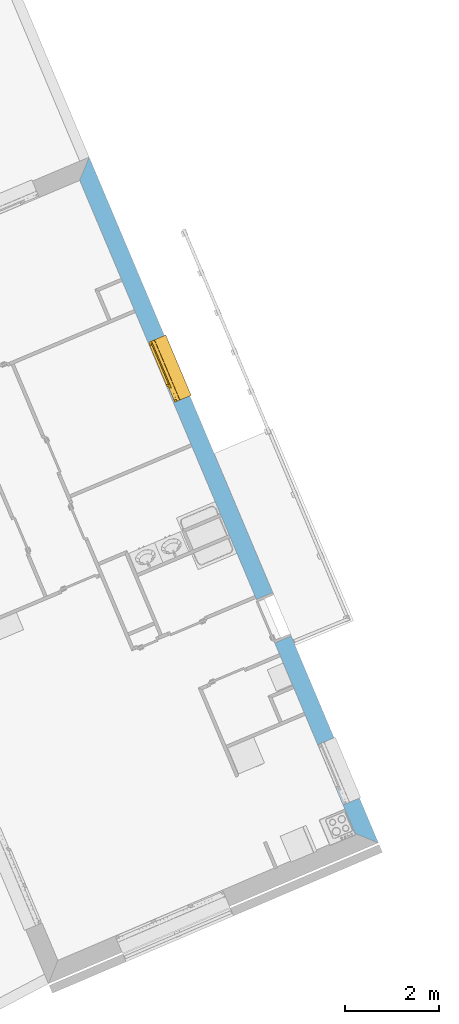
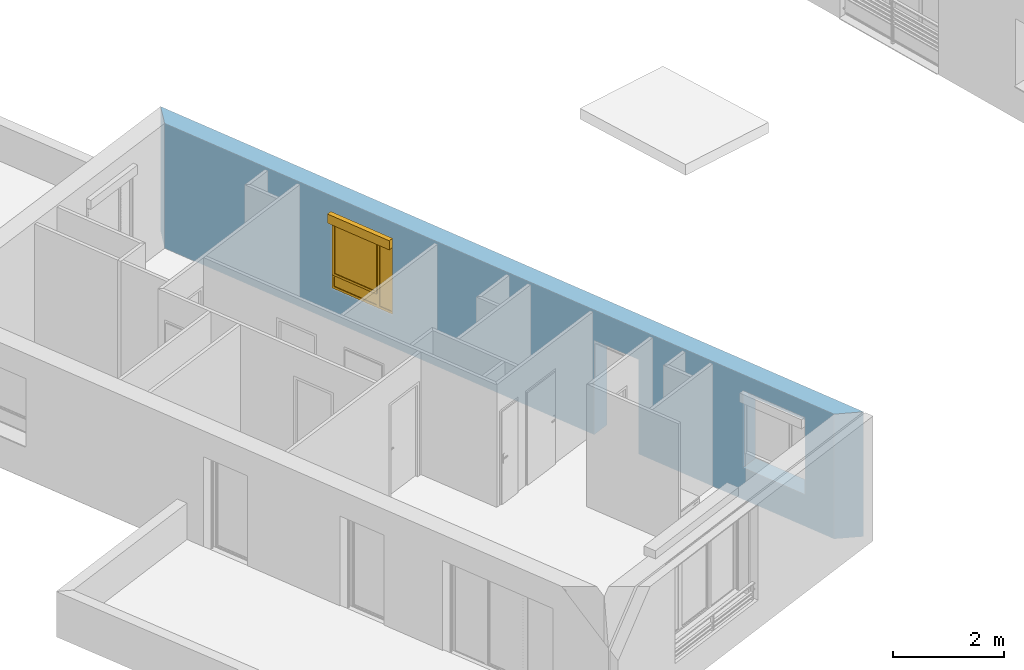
# One storey, part 36 of 121: 1 window, 3 openings, plus 1 element that does not belong to this part.
"""IFC2X3 building model written with IfcOpenShell, lengths in metres."""

from ifc_helpers import new_model, entity, si_unit, converted_unit, derived_unit, money_unit, direction, frame, origin_with_axes, origin_2d_with_axis, place, context, subcontext, project, spatial, polyline, rectangle, outline, extrude, open_shell, faceted_brep, surface_model, source, transform, mapped, material, layer, layer_set, layer_usage, type_object, element, fill, save


model = new_model("IFC2X3")

# Units and contexts
model_context = context("Model", 3, precision=1e-05, world=origin_with_axes(), true_north=direction((0.0, 1.0)))
body_context = subcontext(model_context, "Body", "Model", "MODEL_VIEW")
ifc_project = project(units=[si_unit("LENGTHUNIT", "METRE"), si_unit("AREAUNIT", "SQUARE_METRE"), si_unit("VOLUMEUNIT", "CUBIC_METRE"), converted_unit("PLANEANGLEUNIT", "DEGREE", entity("IfcPlaneAngleMeasure", 0.0174532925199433), si_unit("PLANEANGLEUNIT", "RADIAN"), dimensions=[0, 0, 0, 0, 0, 0, 0]), money_unit("CHF"), converted_unit("TIMEUNIT", "Year", entity("IfcTimeMeasure", 31557600.0), si_unit("TIMEUNIT", "SECOND"), dimensions=[0, 0, 1, 0, 0, 0, 0]), si_unit("MASSUNIT", "GRAM", prefix="KILO"), si_unit("THERMODYNAMICTEMPERATUREUNIT", "DEGREE_CELSIUS"), si_unit("LUMINOUSINTENSITYUNIT", "LUMEN"), si_unit("ENERGYUNIT", "JOULE", prefix="MEGA"), derived_unit("THERMALCONDUCTANCEUNIT", [(si_unit("POWERUNIT", "WATT"), 1), (si_unit("LENGTHUNIT", "METRE"), -1), (si_unit("THERMODYNAMICTEMPERATUREUNIT", "KELVIN"), -1)]), derived_unit("SPECIFICHEATCAPACITYUNIT", [(si_unit("ENERGYUNIT", "JOULE"), 1), (si_unit("MASSUNIT", "GRAM", prefix="KILO"), -1), (si_unit("THERMODYNAMICTEMPERATUREUNIT", "KELVIN"), -1)]), derived_unit("MASSDENSITYUNIT", [(si_unit("MASSUNIT", "GRAM", prefix="KILO"), 1), (si_unit("VOLUMEUNIT", "CUBIC_METRE"), -1)])], contexts=[model_context])

# Site, building, storey
site_placement = place(None, origin_with_axes())
site = spatial("IfcSite", under=ifc_project, at=site_placement, Name="Site", CompositionType="ELEMENT")
building_placement = place(site_placement, origin_with_axes())
building = spatial("IfcBuilding", under=site, at=building_placement, Name="Bâtiment", CompositionType="ELEMENT")
storey_placement = place(building_placement, frame((0.0, 0.0, 2.75), z_axis=(0.0, 0.0, 1.0), x_axis=(1.0, 0.0, 0.0)))
storey = spatial("IfcBuildingStorey", under=building, at=storey_placement, Name="Etage 1", CompositionType="ELEMENT", Elevation=2.75)

# Wall, openings, window
ifc_material_1 = material(Name="Parpaing 312445824")
ifc_layer_1 = layer(ifc_material_1, 0.22, ventilated="UNKNOWN")
ifc_material_2 = material(Name="Isolant styromousse 301821074")
ifc_layer_2 = layer(ifc_material_2, 0.16, ventilated="UNKNOWN")
ifc_layer_set = layer_set([ifc_layer_1, ifc_layer_2], Name="isol int 22+16 0836643197")
ifc_layer_usage = layer_usage(ifc_layer_set, "AXIS2", "NEGATIVE", 0.0)
wall_type = type_object("IfcWallType", Name="isol int 22+16 0836643197 380", PredefinedType="NOTDEFINED")
wall_placement = place(storey_placement, frame((9572.789102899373, -1048.128803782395, 57.7), z_axis=(0.0, 0.0, 1.0), x_axis=(0.3885669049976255, -0.9214205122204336, 0.0)))
wall = element("IfcWallStandardCase", 1, at=wall_placement, inside=storey, type_object=wall_type, material=ifc_layer_usage, Name="Mur-113", context=body_context, shape_type="SweptSolid", body=[
    extrude(outline(polyline([(0.379999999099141, -0.3799999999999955), (15.53325516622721, -0.3799999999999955), (15.91155349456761, 0.0), (-9.952714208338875e-10, 0.0), (0.379999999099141, -0.3799999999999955)])), origin_with_axes(), (0.0, 0.0, 1.0), 2.75),
])
opening_1_placement = place(wall_placement, frame((14.17313174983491, 0.0, 0.7000000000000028), z_axis=(0.0, 0.0, 1.0), x_axis=(1.0, 0.0, 0.0)))
element("IfcOpeningElement", 2, at=opening_1_placement, cuts=wall, Name="Fen-045", context=body_context, shape_type="Brep", body=[
    faceted_brep([(-0.6999999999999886, -0.2199999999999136, 1.5), (0.7000000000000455, -0.2199999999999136, 1.5), (0.7000000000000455, 5.697869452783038, 1.5), (-0.6999999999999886, 5.697869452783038, 1.5), (-0.6999999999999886, -0.2199999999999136, 1.700000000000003), (0.7000000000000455, -0.2199999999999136, 1.700000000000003), (0.7000000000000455, -0.2999999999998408, 1.5), (0.7000000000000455, -0.2999999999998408, 0.0), (0.7000000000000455, 5.697869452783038, 0.0), (-0.6999999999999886, 5.697869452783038, 0.0), (-0.6999999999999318, -0.2999999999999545, 1.5), (-0.6999999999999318, -0.2999999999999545, 0.0), (-0.6999999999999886, -0.4799999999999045, 1.5), (-0.6999999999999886, -0.4799999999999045, 1.700000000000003), (0.7000000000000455, -0.4799999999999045, 1.700000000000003), (0.7000000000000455, -0.4799999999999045, 1.5), (0.7000000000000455, -6.077869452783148, 1.5), (0.7000000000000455, -6.077869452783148, 0.0), (-0.6999999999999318, -6.077869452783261, 0.0), (-0.6999999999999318, -6.077869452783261, 1.5)], [[[0, 1, 2, 3]], [[1, 0, 4, 5]], [[1, 6, 7, 8, 2]], [[2, 8, 9, 3]], [[10, 0, 3, 9, 11]], [[0, 10, 12, 13, 4]], [[14, 5, 4, 13]], [[6, 1, 5, 14, 15]], [[6, 15, 16, 17, 7]], [[7, 11, 9, 8]], [[12, 10, 11, 18, 19]], [[12, 15, 14, 13]], [[15, 12, 19, 16]], [[19, 18, 17, 16]], [[11, 7, 17, 18]]]),
])
opening_2_placement = place(wall_placement, frame((4.840910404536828, 0.0, 0.7000000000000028), z_axis=(0.0, 0.0, 1.0), x_axis=(1.0, 0.0, 0.0)))
opening_2 = element("IfcOpeningElement", 3, at=opening_2_placement, cuts=wall, Name="Fen-045", context=body_context, shape_type="Brep", body=[
    faceted_brep([(-0.6999999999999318, -0.2199999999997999, 1.5), (0.7000000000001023, -0.2199999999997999, 1.5), (0.7000000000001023, 5.697869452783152, 1.5), (-0.6999999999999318, 5.697869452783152, 1.5), (-0.6999999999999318, -0.2199999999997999, 1.700000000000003), (0.7000000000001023, -0.2199999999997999, 1.700000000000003), (0.7000000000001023, -0.2999999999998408, 1.5), (0.7000000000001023, -0.2999999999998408, 0.0), (0.7000000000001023, 5.697869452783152, 0.0), (-0.6999999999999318, 5.697869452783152, 0.0), (-0.6999999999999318, -0.2999999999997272, 1.5), (-0.6999999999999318, -0.2999999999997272, 0.0), (-0.6999999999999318, -0.4799999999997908, 1.5), (-0.6999999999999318, -0.4799999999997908, 1.700000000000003), (0.7000000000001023, -0.4799999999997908, 1.700000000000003), (0.7000000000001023, -0.4799999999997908, 1.5), (0.7000000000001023, -6.07786945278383, 1.5), (0.7000000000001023, -6.07786945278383, 0.0), (-0.6999999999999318, -6.077869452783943, 0.0), (-0.6999999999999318, -6.077869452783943, 1.5)], [[[0, 1, 2, 3]], [[1, 0, 4, 5]], [[1, 6, 7, 8, 2]], [[2, 8, 9, 3]], [[10, 0, 3, 9, 11]], [[0, 10, 12, 13, 4]], [[14, 5, 4, 13]], [[6, 1, 5, 14, 15]], [[6, 15, 16, 17, 7]], [[7, 11, 9, 8]], [[12, 10, 11, 18, 19]], [[12, 15, 14, 13]], [[15, 12, 19, 16]], [[19, 18, 17, 16]], [[11, 7, 17, 18]]]),
])
opening_3_placement = place(wall_placement, frame((10.60770232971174, 0.0, 0.0), z_axis=(0.0, 0.0, 1.0), x_axis=(1.0, 0.0, 0.0)))
element("IfcOpeningElement", 4, at=opening_3_placement, cuts=wall, Name="Por-299", context=body_context, shape_type="SweptSolid", body=[
    extrude(rectangle(XDim=1.01000001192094, YDim=2.079999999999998, at=origin_2d_with_axis()), frame((-5.960430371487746e-09, 0.3799999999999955, 1.039999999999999), z_axis=(0.0, -1.0, 0.0), x_axis=(-1.0, 0.0, 0.0)), (0.0, 0.0, 1.0), 0.76),
])
window_style = type_object("IfcWindowStyle", Name="Fenêtre variable 27", ConstructionType="NOTDEFINED", OperationType="TRIPLE_PANEL_LEFT", ParameterTakesPrecedence=False, Sizeable=False)
shared_shape = source(origin_with_axes(), body_context, "Body", "SurfaceModel", [
    surface_model("IfcShellBasedSurfaceModel", [(0.7, -0.05100000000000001, 0.05), (-0.7, -0.05100000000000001, 0.05000000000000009), (-0.7, -0.05100000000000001, 0.04000000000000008), (0.7, -0.05100000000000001, 0.04), (-0.7, -0.3799999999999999, 0.02900000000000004), (0.7, -0.3799999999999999, 0.02899999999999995), (-0.7, -0.3799999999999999, 0.00900000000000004), (0.7, -0.3799999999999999, 0.008999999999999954), (-0.7, -0.3699999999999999, 0.01900000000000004), (0.7, -0.3699999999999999, 0.01899999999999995)], [open_shell([[[0, 1, 2, 3]], [[3, 2, 4, 5]], [[5, 4, 6, 7]], [[7, 6, 8, 9]]])]),
    faceted_brep([(0.7, -0.13, 1.7), (0.7, 0.13, 1.7), (0.697, 0.13, 1.7), (0.697, -0.13, 1.7), (0.7, -0.13, 1.5), (0.7, 0.13, 1.5), (0.697, 0.13, 1.5), (0.697, -0.13, 1.5)], [[[0, 1, 2, 3]], [[0, 4, 5, 1]], [[1, 5, 6, 2]], [[3, 2, 6, 7]], [[4, 0, 3, 7]], [[5, 4, 7, 6]]]),
    faceted_brep([(-0.6970000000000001, -0.1299999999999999, 1.7), (-0.6970000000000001, 0.1300000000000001, 1.7), (-0.7000000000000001, 0.1300000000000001, 1.7), (-0.7000000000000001, -0.1299999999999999, 1.7), (-0.6970000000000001, -0.1299999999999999, 1.5), (-0.6970000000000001, 0.1300000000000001, 1.5), (-0.7000000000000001, 0.1300000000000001, 1.5), (-0.7000000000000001, -0.1299999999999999, 1.5)], [[[0, 1, 2, 3]], [[0, 4, 5, 1]], [[1, 5, 6, 2]], [[3, 2, 6, 7]], [[4, 0, 3, 7]], [[5, 4, 7, 6]]]),
    faceted_brep([(0.697, -0.13, 1.5), (0.697, -0.13, 1.7), (-0.697, -0.1299999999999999, 1.7), (-0.697, -0.1299999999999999, 1.5), (0.697, -0.127, 1.5), (0.697, -0.127, 1.697), (0.697, 0.127, 1.697), (0.697, 0.127, 1.503), (0.697, -0.108, 1.503), (0.697, -0.108, 1.5), (0.697, 0.13, 1.5), (0.697, 0.13, 1.7), (-0.697, 0.1300000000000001, 1.7), (-0.697, 0.1300000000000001, 1.5), (-0.697, -0.1079999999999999, 1.5), (-0.697, -0.1079999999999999, 1.503), (-0.697, 0.1270000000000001, 1.503), (-0.697, 0.1270000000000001, 1.697), (-0.697, -0.1269999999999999, 1.697), (-0.697, -0.1269999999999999, 1.5)], [[[0, 1, 2, 3]], [[0, 4, 5, 6, 7, 8, 9, 10, 11, 1]], [[1, 11, 12, 2]], [[3, 2, 12, 13, 14, 15, 16, 17, 18, 19]], [[4, 0, 3, 19]], [[5, 4, 19, 18]], [[6, 5, 18, 17]], [[7, 6, 17, 16]], [[8, 7, 16, 15]], [[9, 8, 15, 14]], [[10, 9, 14, 13]], [[11, 10, 13, 12]]]),
    faceted_brep([(0.694, -0.08075423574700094, 1.585760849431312), (0.694, -0.07705479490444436, 1.571954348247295), (0.694, -0.07101408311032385, 1.559), (0.694, -0.06281564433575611, 1.547291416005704), (0.694, -0.05270858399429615, 1.537184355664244), (0.694, -0.04099999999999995, 1.528985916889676), (0.694, -0.02804565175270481, 1.522945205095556), (0.694, -0.01423915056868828, 1.519245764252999), (0.694, 0.0, 1.518), (0.694, 0.01423915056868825, 1.519245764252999), (0.694, 0.02804565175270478, 1.522945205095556), (0.694, 0.04099999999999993, 1.528985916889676), (0.694, 0.05270858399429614, 1.537184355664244), (0.694, 0.06281564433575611, 1.547291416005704), (0.694, 0.07101408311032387, 1.559), (0.694, 0.07705479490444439, 1.571954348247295), (0.694, 0.08075423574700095, 1.585760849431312), (0.694, 0.0819999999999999, 1.6), (0.694, 0.08075423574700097, 1.614239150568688), (0.694, 0.0770547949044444, 1.628045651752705), (0.694, 0.07101408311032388, 1.641), (0.694, 0.06281564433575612, 1.652708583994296), (0.694, 0.05270858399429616, 1.662815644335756), (0.694, 0.04099999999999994, 1.671014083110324), (0.694, 0.02804565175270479, 1.677054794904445), (0.694, 0.01423915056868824, 1.680754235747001), (0.694, 0.0, 1.682), (0.694, -0.01423915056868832, 1.680754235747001), (0.694, -0.02804565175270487, 1.677054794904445), (0.694, -0.04100000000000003, 1.671014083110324), (0.694, -0.05270858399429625, 1.662815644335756), (0.694, -0.06281564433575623, 1.652708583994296), (0.694, -0.07101408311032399, 1.641), (0.694, -0.07705479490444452, 1.628045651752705), (0.694, -0.0807542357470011, 1.614239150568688), (0.694, -0.08200000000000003, 1.6), (-0.694, -0.08075423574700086, 1.585760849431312), (-0.694, -0.07705479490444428, 1.571954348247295), (-0.694, -0.07101408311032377, 1.559), (-0.694, -0.06281564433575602, 1.547291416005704), (-0.694, -0.05270858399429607, 1.537184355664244), (-0.694, -0.04099999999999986, 1.528985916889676), (-0.694, -0.02804565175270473, 1.522945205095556), (-0.694, -0.0142391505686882, 1.519245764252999), (-0.694, 0.0, 1.518), (-0.694, 0.01423915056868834, 1.519245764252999), (-0.694, 0.02804565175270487, 1.522945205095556), (-0.694, 0.04100000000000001, 1.528985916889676), (-0.694, 0.05270858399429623, 1.537184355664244), (-0.694, 0.06281564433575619, 1.547291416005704), (-0.694, 0.07101408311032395, 1.559), (-0.694, 0.07705479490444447, 1.571954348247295), (-0.694, 0.08075423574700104, 1.585760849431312), (-0.694, 0.08199999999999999, 1.6), (-0.694, 0.08075423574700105, 1.614239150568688), (-0.694, 0.07705479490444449, 1.628045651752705), (-0.694, 0.07101408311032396, 1.641), (-0.694, 0.0628156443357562, 1.652708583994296), (-0.694, 0.05270858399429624, 1.662815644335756), (-0.694, 0.04100000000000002, 1.671014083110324), (-0.694, 0.02804565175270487, 1.677054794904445), (-0.694, 0.01423915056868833, 1.680754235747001), (-0.694, 0.0, 1.682), (-0.694, -0.01423915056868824, 1.680754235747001), (-0.694, -0.02804565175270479, 1.677054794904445), (-0.694, -0.04099999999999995, 1.671014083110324), (-0.694, -0.05270858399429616, 1.662815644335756), (-0.694, -0.06281564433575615, 1.652708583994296), (-0.694, -0.07101408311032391, 1.641), (-0.694, -0.07705479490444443, 1.628045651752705), (-0.694, -0.08075423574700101, 1.614239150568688), (-0.694, -0.08199999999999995, 1.6)], [[[0, 1, 2, 3, 4, 5, 6, 7, 8, 9, 10, 11, 12, 13, 14, 15, 16, 17, 18, 19, 20, 21, 22, 23, 24, 25, 26, 27, 28, 29, 30, 31, 32, 33, 34, 35]], [[1, 0, 36, 37]], [[2, 1, 37, 38]], [[3, 2, 38, 39]], [[4, 3, 39, 40]], [[5, 4, 40, 41]], [[6, 5, 41, 42]], [[7, 6, 42, 43]], [[8, 7, 43, 44]], [[9, 8, 44, 45]], [[10, 9, 45, 46]], [[11, 10, 46, 47]], [[12, 11, 47, 48]], [[13, 12, 48, 49]], [[14, 13, 49, 50]], [[15, 14, 50, 51]], [[16, 15, 51, 52]], [[17, 16, 52, 53]], [[18, 17, 53, 54]], [[19, 18, 54, 55]], [[20, 19, 55, 56]], [[21, 20, 56, 57]], [[22, 21, 57, 58]], [[23, 22, 58, 59]], [[24, 23, 59, 60]], [[25, 24, 60, 61]], [[26, 25, 61, 62]], [[27, 26, 62, 63]], [[28, 27, 63, 64]], [[29, 28, 64, 65]], [[30, 29, 65, 66]], [[31, 30, 66, 67]], [[32, 31, 67, 68]], [[33, 32, 68, 69]], [[34, 33, 69, 70]], [[35, 34, 70, 71]], [[0, 35, 71, 36]], [[36, 71, 70, 69, 68, 67, 66, 65, 64, 63, 62, 61, 60, 59, 58, 57, 56, 55, 54, 53, 52, 51, 50, 49, 48, 47, 46, 45, 44, 43, 42, 41, 40, 39, 38, 37]]]),
    faceted_brep([(-0.7, -0.105, 0.03), (-0.7, -0.13, 0.03), (-0.7, -0.1299999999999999, 1.5), (-0.7, -0.1049999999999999, 1.5), (-0.6749999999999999, -0.105, 0.03), (-0.6749999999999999, -0.108, 0.03), (-0.697, -0.108, 0.03), (-0.697, -0.127, 0.03), (-0.6749999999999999, -0.127, 0.03), (-0.6749999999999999, -0.13, 0.03), (-0.6749999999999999, -0.1299999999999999, 1.5), (-0.6749999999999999, -0.1269999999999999, 1.5), (-0.697, -0.1269999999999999, 1.5), (-0.697, -0.1079999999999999, 1.5), (-0.6749999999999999, -0.1079999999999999, 1.5), (-0.6749999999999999, -0.1049999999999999, 1.5)], [[[0, 1, 2, 3]], [[0, 4, 5, 6, 7, 8, 9, 1]], [[1, 9, 10, 2]], [[3, 2, 10, 11, 12, 13, 14, 15]], [[4, 0, 3, 15]], [[5, 4, 15, 14]], [[6, 5, 14, 13]], [[7, 6, 13, 12]], [[8, 7, 12, 11]], [[9, 8, 11, 10]]]),
    faceted_brep([(0.7, -0.105, 0.03), (0.7, -0.1049999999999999, 1.5), (0.7, -0.1299999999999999, 1.5), (0.7, -0.13, 0.03), (0.6749999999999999, -0.105, 0.03), (0.6749999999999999, -0.1049999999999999, 1.5), (0.6749999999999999, -0.1079999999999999, 1.5), (0.697, -0.1079999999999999, 1.5), (0.697, -0.1269999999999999, 1.5), (0.6749999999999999, -0.1269999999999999, 1.5), (0.6749999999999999, -0.1299999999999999, 1.5), (0.6749999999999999, -0.13, 0.03), (0.6749999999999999, -0.127, 0.03), (0.697, -0.127, 0.03), (0.697, -0.108, 0.03), (0.6749999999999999, -0.108, 0.03)], [[[0, 1, 2, 3]], [[4, 5, 1, 0]], [[1, 5, 6, 7, 8, 9, 10, 2]], [[3, 2, 10, 11]], [[0, 3, 11, 12, 13, 14, 15, 4]], [[15, 6, 5, 4]], [[14, 7, 6, 15]], [[13, 8, 7, 14]], [[12, 9, 8, 13]], [[11, 10, 9, 12]]]),
    surface_model("IfcShellBasedSurfaceModel", [(0.697, -0.115, 1.6), (-0.697, -0.1149999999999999, 1.6), (-0.697, -0.12, 1.6), (0.697, -0.12, 1.6), (0.697, -0.115, 1.6), (0.697, -0.12, 1.6), (-0.697, -0.1199999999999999, 1.6), (-0.697, -0.1149999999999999, 1.6)], [open_shell([[[0, 1, 2, 3]], [[4, 5, 6, 7]]])]),
    faceted_brep([(0.697, -0.115, 1.6), (0.697, -0.1166666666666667, 1.583333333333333), (-0.697, -0.1166666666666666, 1.583333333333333), (-0.697, -0.1149999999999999, 1.6), (0.697, -0.12, 1.6), (0.697, -0.1216666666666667, 1.583333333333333), (0.697, -0.1216666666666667, 1.566666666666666), (0.697, -0.12, 1.55), (0.697, -0.115, 1.55), (0.697, -0.1166666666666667, 1.566666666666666), (-0.697, -0.1166666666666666, 1.566666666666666), (-0.697, -0.1149999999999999, 1.55), (-0.697, -0.1199999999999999, 1.55), (-0.697, -0.1216666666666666, 1.566666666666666), (-0.697, -0.1216666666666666, 1.583333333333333), (-0.697, -0.1199999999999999, 1.6)], [[[0, 1, 2, 3]], [[0, 4, 5, 6, 7, 8, 9, 1]], [[1, 9, 10, 2]], [[3, 2, 10, 11, 12, 13, 14, 15]], [[4, 0, 3, 15]], [[5, 4, 15, 14]], [[6, 5, 14, 13]], [[7, 6, 13, 12]], [[8, 7, 12, 11]], [[9, 8, 11, 10]]]),
    faceted_brep([(0.697, -0.115, 1.55), (0.697, -0.1166666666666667, 1.533333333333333), (-0.697, -0.1166666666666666, 1.533333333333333), (-0.697, -0.1149999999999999, 1.55), (0.697, -0.12, 1.55), (0.697, -0.1216666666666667, 1.533333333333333), (0.697, -0.1216666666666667, 1.516666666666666), (0.697, -0.12, 1.5), (0.697, -0.115, 1.5), (0.697, -0.1166666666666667, 1.516666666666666), (-0.697, -0.1166666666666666, 1.516666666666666), (-0.697, -0.1149999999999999, 1.5), (-0.697, -0.1199999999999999, 1.5), (-0.697, -0.1216666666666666, 1.516666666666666), (-0.697, -0.1216666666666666, 1.533333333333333), (-0.697, -0.1199999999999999, 1.55)], [[[0, 1, 2, 3]], [[0, 4, 5, 6, 7, 8, 9, 1]], [[1, 9, 10, 2]], [[3, 2, 10, 11, 12, 13, 14, 15]], [[4, 0, 3, 15]], [[5, 4, 15, 14]], [[6, 5, 14, 13]], [[7, 6, 13, 12]], [[8, 7, 12, 11]], [[9, 8, 11, 10]]]),
    faceted_brep([(0.6749999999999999, 0.0, 1.45), (0.6749999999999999, -0.02500000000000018, 1.45), (0.6499999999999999, -0.02500000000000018, 1.45), (0.6499999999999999, -0.05000000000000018, 1.45), (0.7, -0.05000000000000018, 1.45), (0.7, 0.0, 1.45), (0.6749999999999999, 0.0, 0.3099999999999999), (0.6749999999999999, -0.02500000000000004, 0.3099999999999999), (0.6499999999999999, -0.02500000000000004, 0.335), (0.6499999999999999, -0.02500000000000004, 0.3099999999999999), (0.6499999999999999, -0.05000000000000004, 0.335), (0.6499999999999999, -0.05000000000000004, 0.265), (0.6499999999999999, -0.05000000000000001, 0.05000000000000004), (0.7, -0.05000000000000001, 0.05000000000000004), (0.7, 0.0, 0.05000000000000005), (0.6499999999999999, 0.0, 0.05000000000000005), (0.6499999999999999, 0.0, 0.265), (0.6499999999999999, 0.0, 0.3099999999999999)], [[[0, 1, 2, 3, 4, 5]], [[1, 0, 6, 7]], [[8, 2, 1, 7, 9]], [[2, 8, 10, 3]], [[10, 11, 12, 13, 4, 3]], [[5, 4, 13, 14]], [[6, 0, 5, 14, 15, 16, 17]], [[6, 17, 9, 7]], [[9, 17, 16, 11, 10, 8]], [[15, 12, 11, 16]], [[14, 13, 12, 15]]]),
    faceted_brep([(-0.3068894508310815, -0.02500000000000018, 1.45), (-0.3318894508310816, -0.02500000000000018, 1.45), (-0.3318894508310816, 0.0, 1.45), (-0.3768894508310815, 0.0, 1.45), (-0.3768894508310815, -0.05000000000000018, 1.45), (-0.3068894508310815, -0.05000000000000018, 1.45), (-0.3068894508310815, -0.02500000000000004, 0.335), (-0.3068894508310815, -0.02500000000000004, 0.3099999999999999), (-0.3318894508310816, -0.02500000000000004, 0.3099999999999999), (-0.3318894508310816, 0.0, 0.3099999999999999), (-0.3068894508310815, 0.0, 0.3099999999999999), (-0.3068894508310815, 0.0, 0.265), (-0.3068894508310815, 0.0, 0.05000000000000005), (-0.3768894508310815, 0.0, 0.05000000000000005), (-0.3768894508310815, -0.05000000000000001, 0.05000000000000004), (-0.3068894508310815, -0.05000000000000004, 0.265), (-0.3068894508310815, -0.05000000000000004, 0.335), (-0.3068894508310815, -0.05000000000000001, 0.05000000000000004)], [[[0, 1, 2, 3, 4, 5]], [[1, 0, 6, 7, 8]], [[9, 2, 1, 8]], [[9, 10, 11, 12, 13, 3, 2]], [[13, 14, 4, 3]], [[15, 16, 5, 4, 14, 17]], [[6, 0, 5, 16]], [[7, 6, 16, 15, 11, 10]], [[10, 9, 8, 7]], [[11, 15, 17, 12]], [[12, 17, 14, 13]]]),
    faceted_brep([(0.6499999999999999, -0.02500000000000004, 0.335), (-0.3068894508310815, -0.02500000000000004, 0.335), (-0.3068894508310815, -0.05000000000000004, 0.335), (0.6499999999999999, -0.05000000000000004, 0.335), (-0.3068894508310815, -0.02500000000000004, 0.3099999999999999), (0.6499999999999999, -0.02500000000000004, 0.3099999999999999), (-0.3068894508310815, 0.0, 0.3099999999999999), (-0.3068894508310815, 0.0, 0.265), (-0.3068894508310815, -0.05000000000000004, 0.265), (0.6499999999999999, -0.05000000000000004, 0.265), (0.6499999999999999, 0.0, 0.265), (0.6499999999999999, 0.0, 0.3099999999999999)], [[[0, 1, 2, 3]], [[4, 1, 0, 5]], [[4, 6, 7, 8, 2, 1]], [[2, 8, 9, 3]], [[5, 0, 3, 9, 10, 11]], [[11, 6, 4, 5]], [[6, 11, 10, 7]], [[10, 9, 8, 7]]]),
    faceted_brep([(0.6749999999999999, 0.0, 1.45), (0.6749999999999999, 0.0, 1.475), (-0.3318894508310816, 0.0, 1.475), (-0.3318894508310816, 0.0, 1.45), (-0.3768894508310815, 0.0, 1.45), (-0.6499999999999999, 0.0, 1.45), (-0.7, 0.0, 1.45), (-0.7, 0.0, 1.5), (0.7, 0.0, 1.5), (0.7, 0.0, 1.45), (0.6749999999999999, -0.02500000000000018, 1.45), (0.6749999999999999, -0.02500000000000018, 1.475), (-0.3318894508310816, -0.02500000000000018, 1.475), (-0.3318894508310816, -0.02500000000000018, 1.45), (-0.3068894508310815, -0.02500000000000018, 1.45), (-0.3068894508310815, -0.05000000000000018, 1.45), (-0.3768894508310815, -0.05000000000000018, 1.45), (-0.6499999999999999, -0.05000000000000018, 1.45), (-0.7, -0.05000000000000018, 1.45), (-0.7, -0.05000000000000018, 1.5), (0.7, -0.05000000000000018, 1.5), (0.7, -0.05000000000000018, 1.45), (0.6499999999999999, -0.05000000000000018, 1.45), (0.6499999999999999, -0.02500000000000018, 1.45)], [[[0, 1, 2, 3, 4, 5, 6, 7, 8, 9]], [[1, 0, 10, 11]], [[2, 1, 11, 12]], [[3, 2, 12, 13]], [[13, 14, 15, 16, 4, 3]], [[4, 16, 17, 5]], [[5, 17, 18, 6]], [[6, 18, 19, 7]], [[7, 19, 20, 8]], [[8, 20, 21, 9]], [[10, 0, 9, 21, 22, 23]], [[14, 13, 12, 11, 10, 23]], [[14, 23, 22, 15]], [[16, 15, 22, 21, 20, 19, 18, 17]]]),
    faceted_brep([(-0.6499999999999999, -0.05000000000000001, 0.05), (-0.7, -0.05000000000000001, 0.05), (-0.7, 0.0, 0.05000000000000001), (-0.6499999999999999, 0.0, 0.05000000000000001), (-0.6499999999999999, -0.05000000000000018, 1.45), (-0.7, -0.05000000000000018, 1.45), (-0.7, 0.0, 1.45), (-0.6499999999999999, 0.0, 1.45)], [[[0, 1, 2, 3]], [[0, 4, 5, 1]], [[1, 5, 6, 2]], [[3, 2, 6, 7]], [[4, 0, 3, 7]], [[5, 4, 7, 6]]]),
    faceted_brep([(0.6499999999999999, -0.05000000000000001, 0.05), (0.7, -0.05000000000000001, 0.05), (0.7, 0.0, 0.05000000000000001), (0.6499999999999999, 0.0, 0.05000000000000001), (-0.3068894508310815, -0.05000000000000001, 0.05), (-0.3768894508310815, -0.05000000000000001, 0.05), (-0.6499999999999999, -0.05000000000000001, 0.05), (-0.7, -0.05000000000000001, 0.05), (-0.7, -0.05, 0.0), (0.7, -0.05, 0.0), (0.7, 0.0, 0.0), (-0.7, 0.0, 0.0), (-0.7, 0.0, 0.05000000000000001), (-0.6499999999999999, 0.0, 0.05000000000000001), (-0.3768894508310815, 0.0, 0.05000000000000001), (-0.3068894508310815, 0.0, 0.05000000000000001)], [[[0, 1, 2, 3]], [[0, 4, 5, 6, 7, 8, 9, 1]], [[1, 9, 10, 2]], [[3, 2, 10, 11, 12, 13, 14, 15]], [[4, 0, 3, 15]], [[5, 4, 15, 14]], [[6, 5, 14, 13]], [[7, 6, 13, 12]], [[8, 7, 12, 11]], [[9, 8, 11, 10]]]),
    faceted_brep([(0.625, -0.02500000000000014, 1.425), (0.6749999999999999, -0.02500000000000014, 1.425), (0.6749999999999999, 0.02499999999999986, 1.425), (0.625, 0.02499999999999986, 1.425), (0.625, -0.02500000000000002, 0.3599999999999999), (0.6749999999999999, -0.02500000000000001, 0.3599999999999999), (0.6749999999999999, 0.02499999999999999, 0.3599999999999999), (0.625, 0.02499999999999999, 0.3599999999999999)], [[[0, 1, 2, 3]], [[0, 4, 5, 1]], [[1, 5, 6, 2]], [[3, 2, 6, 7]], [[4, 0, 3, 7]], [[5, 4, 7, 6]]]),
    faceted_brep([(-0.2818894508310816, -0.02500000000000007, 0.3599999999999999), (-0.3318894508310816, -0.02500000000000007, 0.3599999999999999), (-0.3318894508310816, 0.02499999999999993, 0.3599999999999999), (-0.2818894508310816, 0.02499999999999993, 0.3599999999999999), (-0.2818894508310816, -0.0250000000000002, 1.425), (-0.3318894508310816, -0.0250000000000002, 1.425), (-0.3318894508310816, 0.0249999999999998, 1.425), (-0.2818894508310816, 0.0249999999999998, 1.425)], [[[0, 1, 2, 3]], [[0, 4, 5, 1]], [[1, 5, 6, 2]], [[3, 2, 6, 7]], [[4, 0, 3, 7]], [[5, 4, 7, 6]]]),
    faceted_brep([(-0.3318894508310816, -0.02500000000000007, 0.3099999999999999), (-0.3318894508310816, -0.02500000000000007, 0.3599999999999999), (-0.3318894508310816, 0.02499999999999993, 0.3599999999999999), (-0.3318894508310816, 0.02499999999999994, 0.3099999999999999), (0.6749999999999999, -0.025, 0.3099999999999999), (0.6749999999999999, -0.02500000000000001, 0.3599999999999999), (0.625, -0.02500000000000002, 0.3599999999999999), (-0.2818894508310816, -0.02500000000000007, 0.3599999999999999), (-0.2818894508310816, 0.02499999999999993, 0.3599999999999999), (0.625, 0.02499999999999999, 0.3599999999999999), (0.6749999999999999, 0.02499999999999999, 0.3599999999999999), (0.6749999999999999, 0.02499999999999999, 0.3099999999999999)], [[[0, 1, 2, 3]], [[0, 4, 5, 6, 7, 1]], [[1, 7, 8, 2]], [[3, 2, 8, 9, 10, 11]], [[4, 0, 3, 11]], [[5, 4, 11, 10]], [[6, 5, 10, 9]], [[7, 6, 9, 8]]]),
    faceted_brep([(0.6749999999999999, -0.02500000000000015, 1.475), (0.6749999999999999, -0.02500000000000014, 1.425), (0.6749999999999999, 0.02499999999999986, 1.425), (0.6749999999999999, 0.02499999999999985, 1.475), (-0.3318894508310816, -0.02500000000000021, 1.475), (-0.3318894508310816, -0.0250000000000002, 1.425), (-0.2818894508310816, -0.0250000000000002, 1.425), (0.625, -0.02500000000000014, 1.425), (0.625, 0.02499999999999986, 1.425), (-0.2818894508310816, 0.0249999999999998, 1.425), (-0.3318894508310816, 0.0249999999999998, 1.425), (-0.3318894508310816, 0.02499999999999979, 1.475)], [[[0, 1, 2, 3]], [[0, 4, 5, 6, 7, 1]], [[1, 7, 8, 2]], [[3, 2, 8, 9, 10, 11]], [[4, 0, 3, 11]], [[5, 4, 11, 10]], [[6, 5, 10, 9]], [[7, 6, 9, 8]]]),
    surface_model("IfcShellBasedSurfaceModel", [(0.625, -0.01000000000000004, 0.3599999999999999), (0.625, -0.01000000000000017, 1.425), (-0.2818894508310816, -0.01000000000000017, 1.425), (-0.2818894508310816, -0.01000000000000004, 0.3599999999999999)], [open_shell([[[0, 1, 2, 3]]])]),
    surface_model("IfcShellBasedSurfaceModel", [(0.625, 0.009999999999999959, 0.3599999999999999), (-0.2818894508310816, 0.009999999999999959, 0.3599999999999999), (-0.2818894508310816, 0.00999999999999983, 1.425), (0.625, 0.00999999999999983, 1.425)], [open_shell([[[0, 1, 2, 3]]])]),
    surface_model("IfcShellBasedSurfaceModel", [(-0.3768894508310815, -0.035, 0.05), (-0.3768894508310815, -0.03500000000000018, 1.45), (-0.65, -0.03500000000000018, 1.45), (-0.65, -0.035, 0.05)], [open_shell([[[0, 1, 2, 3]]])]),
    surface_model("IfcShellBasedSurfaceModel", [(-0.3768894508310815, -0.015, 0.05), (-0.65, -0.015, 0.05), (-0.65, -0.01500000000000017, 1.45), (-0.3768894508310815, -0.01500000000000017, 1.45)], [open_shell([[[0, 1, 2, 3]]])]),
    surface_model("IfcShellBasedSurfaceModel", [(0.6499999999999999, -0.035, 0.05), (0.6499999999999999, -0.03500000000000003, 0.265), (-0.3068894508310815, -0.03500000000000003, 0.265), (-0.3068894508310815, -0.035, 0.05)], [open_shell([[[0, 1, 2, 3]]])]),
    surface_model("IfcShellBasedSurfaceModel", [(0.6499999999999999, -0.015, 0.05), (-0.3068894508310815, -0.015, 0.05), (-0.3068894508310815, -0.01500000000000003, 0.265), (0.6499999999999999, -0.01500000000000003, 0.265)], [open_shell([[[0, 1, 2, 3]]])]),
])
window_placement = place(opening_2_placement, frame((0.7000000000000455, 0.0, 0.0), z_axis=(0.0, 0.0, 1.0), x_axis=(-1.0, 0.0, 0.0)))
window = element("IfcWindow", 5, at=window_placement, inside=storey, type_object=window_style, Name="Fen-045", OverallHeight=1.5, OverallWidth=1.4, context=body_context, shape_type="MappedRepresentation", body=[
    mapped(shared_shape, transform((0.6999999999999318, 0.3500000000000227, 0.0))),
])
fill(opening_2, window)

save(model, "model.ifc")
